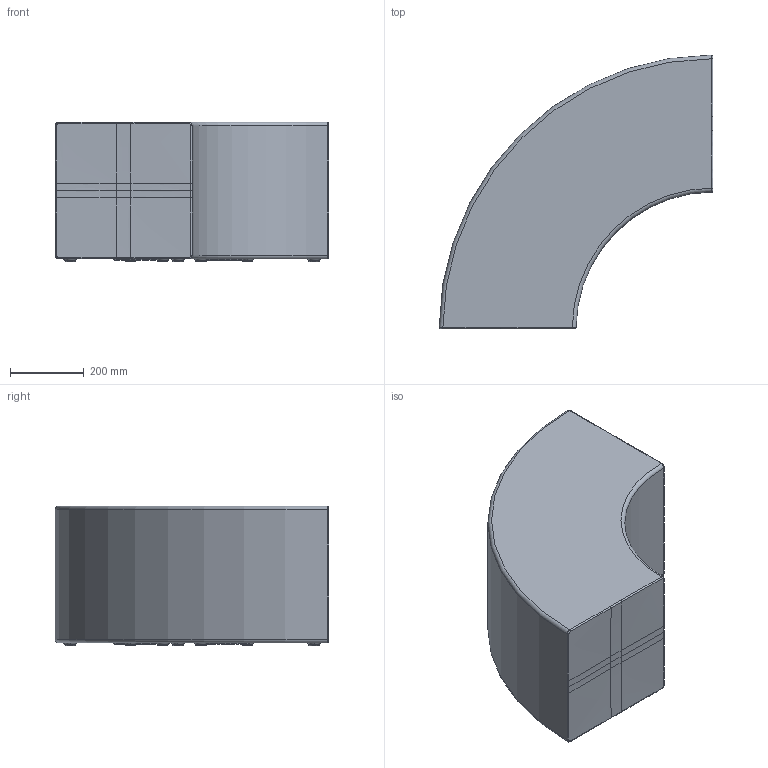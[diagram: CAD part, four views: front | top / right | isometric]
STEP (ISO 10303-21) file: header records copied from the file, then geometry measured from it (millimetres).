
FILE_DESCRIPTION(('CATIA V5 STEP Exchange','CAx-IF Rec.Pracs.--- Model Styling and Organization---1.5--- 2016-08-15','CAx-IF Rec.Pracs.---Supplemental Geometry---1.0---2011-11-01','CAx-IF Rec.Pracs.--- Composite Materials ---3.4---2017-06-13','CAx-IF Rec.Pracs.---Tessellated 3D Geometry---1.0---2015-12-17'),'2;1');
FILE_NAME('C:\Users\samatori\Desktop\Panca-TWIST.stp','2025-04-10T10:11:17+00:00',('none'),('none'),'CATIA Version 5-6 Release 2020 SP3','CATIA V5 STEP AP242 v2','none');
FILE_SCHEMA(('AP242_MANAGED_MODEL_BASED_3D_ENGINEERING_MIM_LF {1 0 10303 442 1 1 4}'));
Length unit declared in the file: millimetre
Products named in the file (1): Part2
Bounding box: 739.99 x 739.99 x 378 mm (x, y, z)
Volume: 115863537.9 mm3; surface area: 1625027.1 mm2
Topology: 1 solids, 1 shells, 409 faces, 904 edges, 513 vertices
Faces by surface type: bspline 218, torus 84, cone 47, plane 34, cylinder 22, revolution 4
Entity records: 32625 total; most frequent: CARTESIAN_POINT 25573, ORIENTED_EDGE 1792, EDGE_CURVE 896, DIRECTION 730, VERTEX_POINT 513, B_SPLINE_CURVE_WITH_KNOTS 502, AXIS2_PLACEMENT_3D 459, EDGE_LOOP 433
